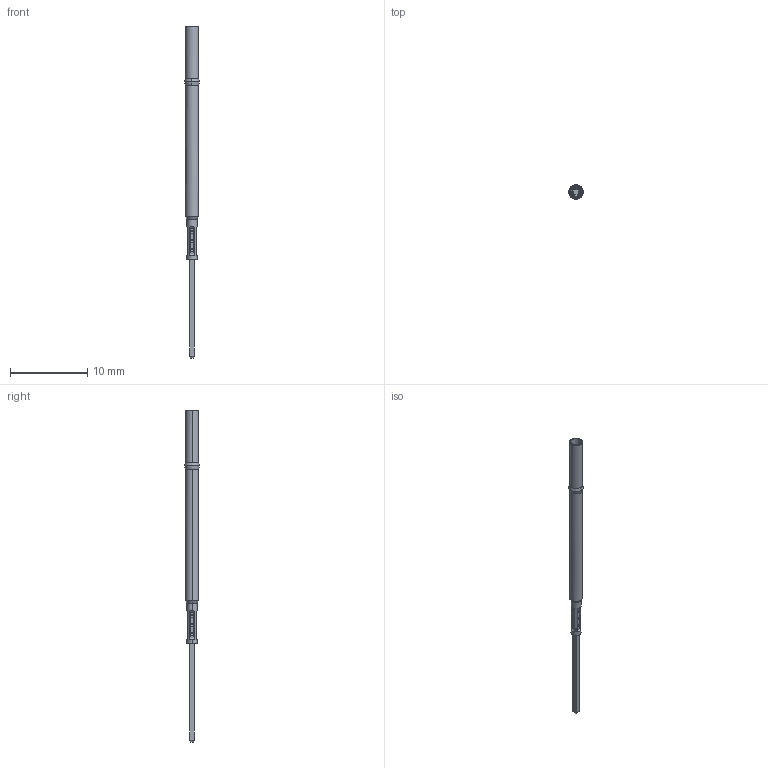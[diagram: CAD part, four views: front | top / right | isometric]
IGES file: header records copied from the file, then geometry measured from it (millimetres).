
Start section: SolidWorks IGES file using analytic representation for surfaces
Global section: file name: \\CODA-VM-SBS\RedirectedFolders\GeorgeD\My Documents\Coda\RA Series\ATE\RA4W.IGS; native system: SolidWorks 2022; preprocessor: SolidWorks 2022; author: GeorgeD; date: 220915.105926; units: inch
Bounding box: 1.87 x 1.87 x 42.93 mm (x, y, z)
Surface area: 311.6 mm2 (no closed solid volume)
Topology: 0 solids, 0 shells, 130 faces, 792 edges, 792 vertices
Faces by surface type: bspline 130
